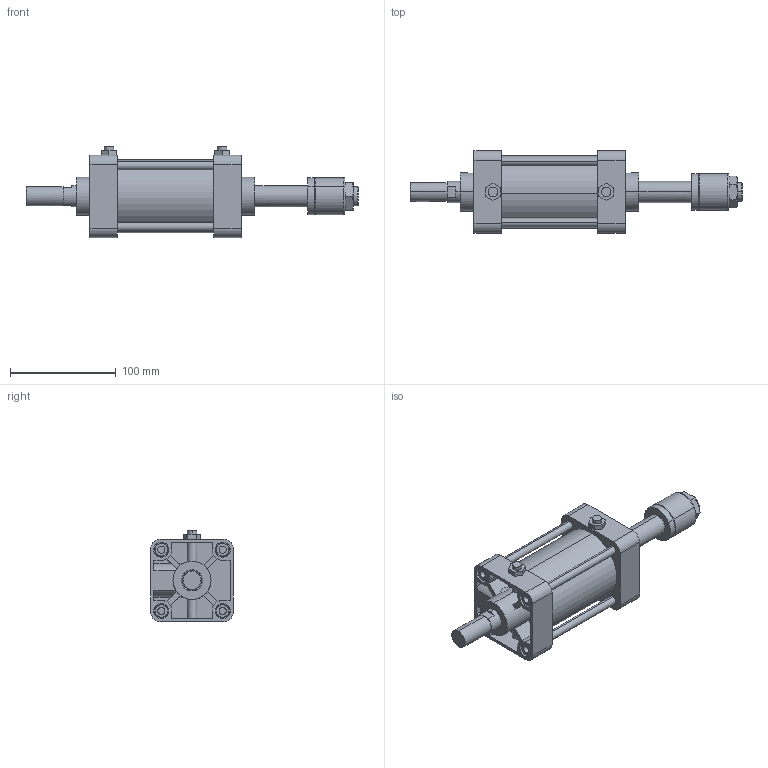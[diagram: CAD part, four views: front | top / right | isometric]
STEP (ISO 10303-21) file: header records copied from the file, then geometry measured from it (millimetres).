
FILE_DESCRIPTION (( 'STEP AP203' ), '1' );
FILE_NAME ('KGA7-63#-50-N.STEP', '2016-04-14T07:52:15', ( '' ), ( '' ), 'SwSTEP 2.0', 'SolidWorks 2014', '' );
FILE_SCHEMA (( 'CONFIG_CONTROL_DESIGN' ));
Length unit declared in the file: millimetre
Products named in the file (8): KGA7-63#-50-N; K#7-63-50-After; KGLH2-63-50; KGA7-50(63)-Turn
Assembly tree (17 placements, depth 2):
  KGA7-63#-50-N
    K#7-63-50-After
    KGLH2-63-50
    (unnamed)
    (unnamed)  x4
    (unnamed)  x8
    KGA7-50(63)-Turn
    (unnamed)
Bounding box: 314 x 78 x 86.3 mm (x, y, z)
Volume: 664390.5 mm3; surface area: 135646 mm2
Topology: 17 solids, 17 shells, 369 faces, 864 edges, 548 vertices
Faces by surface type: plane 159, cylinder 136, torus 46, cone 28
Entity records: 9617 total; most frequent: CARTESIAN_POINT 1794, DIRECTION 1480, ORIENTED_EDGE 1348, EDGE_CURVE 674, AXIS2_PLACEMENT_3D 563, VERTEX_POINT 438, VECTOR 354, LINE 354
